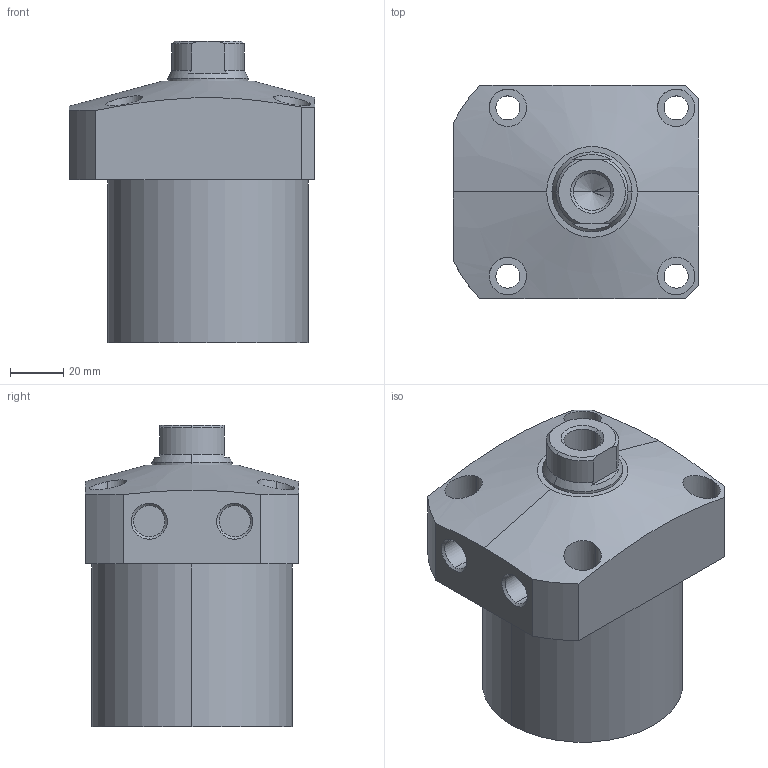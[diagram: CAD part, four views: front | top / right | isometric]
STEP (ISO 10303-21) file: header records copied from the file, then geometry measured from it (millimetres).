
FILE_DESCRIPTION (( 'STEP AP203' ), '1' );
FILE_NAME ('CLL-075CA-050.STEP', '2019-12-20T05:50:10', ( '' ), ( '' ), 'SwSTEP 2.0', 'SolidWorks 2015', '' );
FILE_SCHEMA (( 'CONFIG_CONTROL_DESIGN' ));
Length unit declared in the file: millimetre
Products named in the file (1): CLL-075CA-050
Bounding box: 92 x 80 x 113 mm (x, y, z)
Volume: 492188 mm3; surface area: 45648.6 mm2
Topology: 1 solids, 1 shells, 72 faces, 169 edges, 108 vertices
Faces by surface type: cylinder 35, plane 22, cone 15
Entity records: 2557 total; most frequent: CARTESIAN_POINT 792, DIRECTION 366, ORIENTED_EDGE 334, EDGE_CURVE 167, AXIS2_PLACEMENT_3D 150, VERTEX_POINT 108, EDGE_LOOP 91, CIRCLE 77
